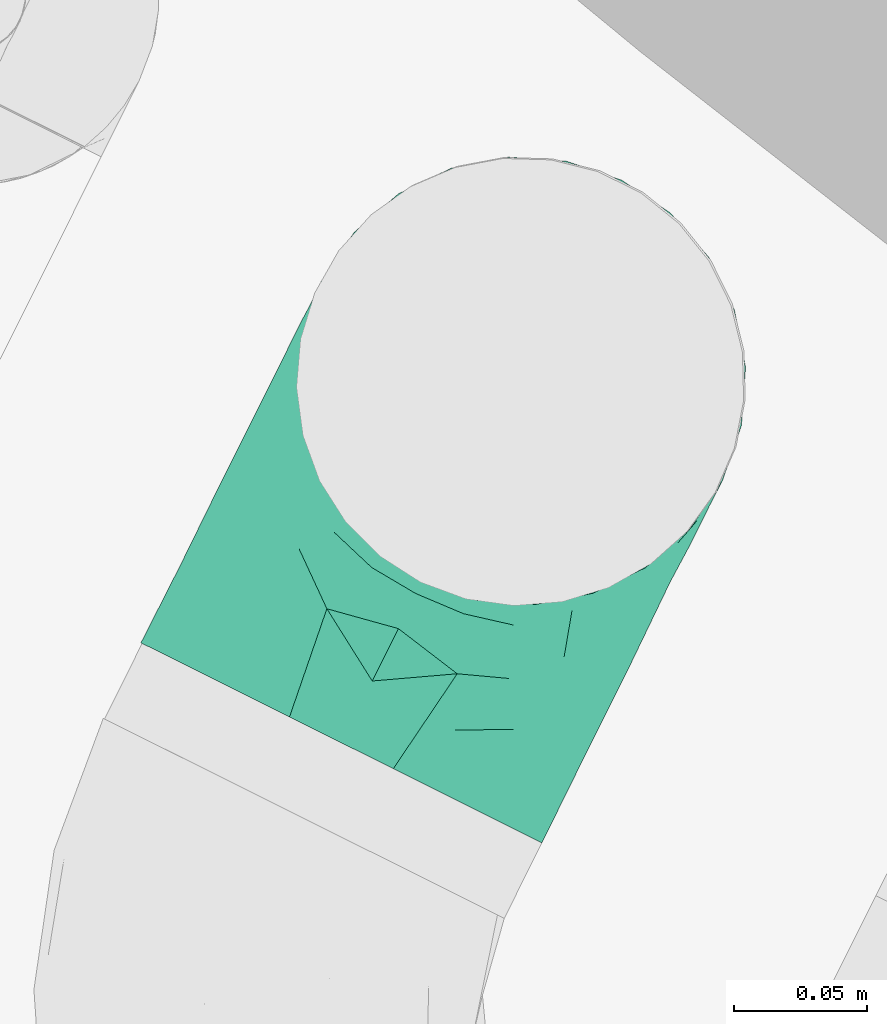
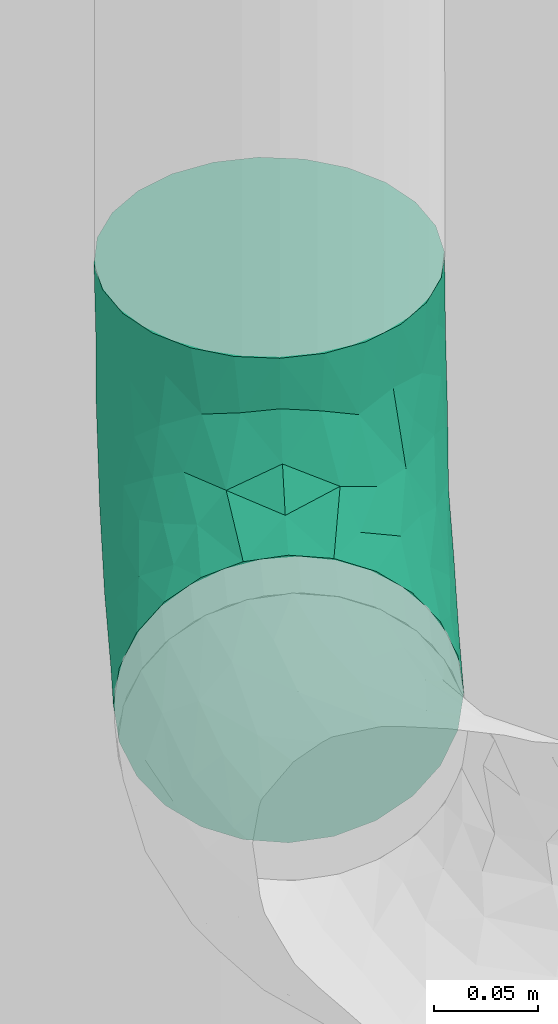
# One storey, part 42 of 47: 1 flow fitting.
"""IFC2X3 building model written with IfcOpenShell, lengths in metres."""

from ifc_helpers import new_model, entity, si_unit, converted_unit, derived_unit, direction, frame, origin, place, context, subcontext, project, spatial, faceted_brep, source, transform, mapped, type_object, type_shapes, element, save


model = new_model("IFC2X3")

# Units and contexts
model_context = context("Model", 3, precision=1e-05, world=origin(), true_north=direction((0.894925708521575, 0.446215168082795)))
context_of_model = context(None, 3, precision=1e-05, world=origin(), true_north=direction((0.894925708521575, 0.446215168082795)))
body_context = subcontext(model_context, "Body", "Model", "MODEL_VIEW")
ifc_project = project(units=[si_unit("LENGTHUNIT", "METRE"), si_unit("AREAUNIT", "SQUARE_METRE"), si_unit("VOLUMEUNIT", "CUBIC_METRE"), converted_unit("PLANEANGLEUNIT", "DEGREE", entity("IfcRatioMeasure", 0.0174532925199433), si_unit("PLANEANGLEUNIT", "RADIAN"), dimensions=[0, 0, 0, 0, 0, 0, 0]), si_unit("MASSUNIT", "GRAM", prefix="KILO"), si_unit("TIMEUNIT", "SECOND"), si_unit("FREQUENCYUNIT", "HERTZ"), si_unit("THERMODYNAMICTEMPERATUREUNIT", "DEGREE_CELSIUS"), derived_unit("THERMALTRANSMITTANCEUNIT", [(si_unit("MASSUNIT", "GRAM", prefix="KILO"), 1), (si_unit("THERMODYNAMICTEMPERATUREUNIT", "KELVIN"), -1), (si_unit("TIMEUNIT", "SECOND"), -3)]), derived_unit("VOLUMETRICFLOWRATEUNIT", [(si_unit("LENGTHUNIT", "METRE"), 3), (si_unit("TIMEUNIT", "SECOND"), -1)]), si_unit("ELECTRICCURRENTUNIT", "AMPERE"), si_unit("ELECTRICVOLTAGEUNIT", "VOLT"), si_unit("POWERUNIT", "WATT"), si_unit("FORCEUNIT", "NEWTON", prefix="KILO"), si_unit("ILLUMINANCEUNIT", "LUX"), si_unit("LUMINOUSFLUXUNIT", "LUMEN"), si_unit("LUMINOUSINTENSITYUNIT", "CANDELA"), si_unit("PRESSUREUNIT", "PASCAL")], contexts=[model_context, context_of_model])

# Site, building, storey
site_placement = place(None, frame((218.228324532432, 584.720189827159, 0.0), z_axis=(0.0, 0.0, 1.0), x_axis=(0.446215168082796, 0.894925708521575, 0.0)))
site = spatial("IfcSite", under=ifc_project, at=site_placement, Name="Default", CompositionType="ELEMENT")
building_placement = place(site_placement, origin())
building = spatial("IfcBuilding", under=site, at=building_placement, CompositionType="ELEMENT")
storey_placement = place(building_placement, frame((0.0, 0.0, 4.69)))
storey = spatial("IfcBuildingStorey", under=building, at=storey_placement, Name="1 - Piano Primo", CompositionType="ELEMENT", Elevation=4.69)

# Flow fitting
pipe_fitting_type = type_object("IfcPipeFittingType", Name="Standard", PredefinedType="NOTDEFINED")
shared_shape = source(origin(), body_context, "Body", "Brep", [
    faceted_brep([(-0.151999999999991, 0.0, -0.0841500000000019), (-0.151999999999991, -0.0217796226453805, -0.081282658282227), (-0.151999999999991, -0.0420750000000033, -0.0728760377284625), (-0.151999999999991, -0.0595030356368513, -0.05950303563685), (-0.151999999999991, -0.0728760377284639, -0.0420750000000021), (-0.151999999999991, -0.0812826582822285, -0.0217796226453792), (-0.151999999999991, -0.0841500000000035, 0.0), (-0.151999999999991, -0.0812826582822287, 0.021779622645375), (-0.151999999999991, -0.0728760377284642, 0.0420749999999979), (-0.151999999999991, -0.0595030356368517, 0.0595030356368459), (-0.151999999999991, -0.0420750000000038, 0.0728760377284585), (-0.151999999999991, -0.021779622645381, 0.0812826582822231), (-0.151999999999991, 0.0, 0.0841499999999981), (-0.151999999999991, 0.0217796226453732, 0.0812826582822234), (-0.151999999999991, 0.0420749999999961, 0.0728760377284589), (-0.151999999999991, 0.0595030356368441, 0.0595030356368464), (-0.151999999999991, 0.0728760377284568, 0.0420749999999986), (-0.151999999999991, 0.0812826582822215, 0.0217796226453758), (-0.151999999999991, 0.0841499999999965, 0.0), (-0.151999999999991, 0.0812826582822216, -0.021779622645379), (-0.151999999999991, 0.072876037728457, -0.0420750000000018), (-0.151999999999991, 0.0595030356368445, -0.0595030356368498), (-0.151999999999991, 0.0420749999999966, -0.0728760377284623), (-0.151999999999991, 0.0217796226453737, -0.0812826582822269), (-0.0218286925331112, 0.151992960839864, -0.0812826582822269), (-0.0421240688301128, 0.151986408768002, -0.0728760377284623), (-0.0595521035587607, 0.151980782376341, -0.0595030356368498), (-0.0729251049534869, 0.151976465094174, -0.0420750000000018), (-0.0813317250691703, 0.151973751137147, -0.021779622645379), (-0.0841990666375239, 0.151972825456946, 0.0), (-0.0813317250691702, 0.151973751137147, 0.0217796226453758), (-0.0729251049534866, 0.151976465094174, 0.0420749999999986), (-0.0595521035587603, 0.151980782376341, 0.0595030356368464), (-0.0421240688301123, 0.151986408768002, 0.0728760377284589), (-0.0218286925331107, 0.151992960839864, 0.0812826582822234), (-4.907102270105e-05, 0.151999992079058, 0.0841499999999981), (0.0217305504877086, 0.152007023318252, 0.0812826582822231), (0.0420259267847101, 0.152013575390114, 0.0728760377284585), (0.059453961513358, 0.152019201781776, 0.0595030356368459), (0.0728269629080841, 0.152023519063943, 0.0420749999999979), (0.0812335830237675, 0.15202623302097, 0.021779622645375), (0.0841009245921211, 0.152027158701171, 0.0), (0.0812335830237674, 0.15202623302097, -0.0217796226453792), (0.0728269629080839, 0.152023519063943, -0.0420750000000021), (0.0594539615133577, 0.152019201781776, -0.05950303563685), (0.0420259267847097, 0.152013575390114, -0.0728760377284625), (0.0217305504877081, 0.152007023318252, -0.081282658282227), (-4.90710227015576e-05, 0.151999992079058, -0.0841500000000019), (-0.112310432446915, -0.0662378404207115, 0.0469747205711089), (-0.0999104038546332, -0.0498997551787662, 0.0623502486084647), (-0.0994519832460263, -0.0782280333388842, 0.0), (0.0326182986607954, 0.00477846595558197, 0.0), (0.0138982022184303, -0.0138937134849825, 0.0159390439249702), (-0.00476793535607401, -0.0326198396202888, 0.0), (-0.104346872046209, -0.0750373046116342, 0.0261448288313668), (-0.113423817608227, 0.0105442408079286, 0.0839780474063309), (-0.103456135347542, 0.0347209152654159, 0.0803295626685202), (-0.131472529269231, 0.030969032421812, 0.0789065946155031), (-0.0309253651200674, -0.0471420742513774, 0.0225711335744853), (-0.049540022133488, -0.0607592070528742, 0.0), (-0.0683518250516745, -0.056889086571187, 0.0418275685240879), (-0.0660408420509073, -0.0644518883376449, 0.0231635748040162), (-0.0836142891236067, 0.116970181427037, 0.037888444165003), (-0.0265553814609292, 0.0183211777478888, 0.0780987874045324), (-0.016550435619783, 0.0456747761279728, 0.0816857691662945), (-0.0428653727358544, 0.0321351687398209, 0.0835395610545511), (0.046984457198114, 0.0693359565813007, 0.0552149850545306), (0.0568670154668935, 0.0683701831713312, 0.0418275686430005), (0.0662015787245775, 0.112331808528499, 0.0469747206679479), (-0.088120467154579, 0.123131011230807, 0.0194510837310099), (-0.115040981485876, -0.0119264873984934, 0.0826066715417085), (0.0498674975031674, 0.0999265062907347, 0.0623502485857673), (-0.111166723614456, -0.0327247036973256, 0.0754883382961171), (-0.0752591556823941, -0.0325423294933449, 0.0692101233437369), (-0.00890661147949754, -0.0110127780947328, 0.0535411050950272), (-0.00897802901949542, 0.00897512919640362, 0.0674769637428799), (-0.0444752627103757, -0.0301075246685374, 0.0595170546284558), (-0.109369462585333, 0.093468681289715, 0.0273537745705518), (-0.128747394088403, 0.0797539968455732, 0.0359127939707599), (-0.12604864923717, 0.0893131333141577, 0.0), (0.04713208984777, 0.0309405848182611, 0.0225711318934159), (0.0371204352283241, 0.0305956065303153, 0.0422805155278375), (-0.0347543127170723, 0.10344492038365, 0.0803295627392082), (-0.0262513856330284, 0.0749031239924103, 0.0840309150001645), (-0.0105808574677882, 0.11342040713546, 0.0839780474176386), (-0.119951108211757, 0.0519223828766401, 0.0698594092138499), (-0.0833569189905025, 0.0610034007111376, 0.0750781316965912), (-0.0993941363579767, 0.0670352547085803, 0.0661127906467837), (-0.0523087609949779, 0.118026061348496, 0.070038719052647), (-0.118538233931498, 0.0695719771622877, 0.0557473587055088), (0.0607432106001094, 0.0495596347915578, 0.0), (0.0326888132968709, 0.111177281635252, 0.0754883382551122), (-0.0767665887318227, 0.0258328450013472, 0.08399544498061), (0.0118893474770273, 0.115044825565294, 0.0826066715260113), (-0.102230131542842, 0.0876990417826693, 0.045671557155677), (0.078195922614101, 0.0994772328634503, 0.0), (0.0750036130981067, 0.104371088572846, 0.026144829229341), (0.0651063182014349, 0.0654365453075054, 0.0199209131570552), (-0.0566668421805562, 0.0566485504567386, 0.08238359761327), (-0.0310114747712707, 0.131462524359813, 0.0789065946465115), (-0.067383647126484, 0.10159431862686, 0.0649667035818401), (-0.0688114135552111, 0.121625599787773, 0.0553238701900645), (-0.0893538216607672, 0.126019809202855, 0.0), (-0.104049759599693, 0.104016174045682, 0.0), (-0.0581140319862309, 0.0854157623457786, 0.0756382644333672), (0.00432566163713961, 0.0425324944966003, 0.0746381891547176), (0.00306461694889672, 0.0734475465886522, 0.0812629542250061), (-0.069320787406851, -0.0470068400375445, 0.0552149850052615), (-0.0856484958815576, 0.0862562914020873, 0.0604128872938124), (-0.0414857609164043, 0.0784197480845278, 0.0819280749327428), (-0.0734465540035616, -0.00308832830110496, 0.0812629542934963), (-0.0305836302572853, -0.0371303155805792, 0.042280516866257), (-0.0426323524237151, -0.0109694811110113, 0.0715612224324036), (0.0221942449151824, 0.0752031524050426, 0.0748771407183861), (0.0365244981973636, 0.0751454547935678, 0.0664585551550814), (0.0166809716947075, 0.0144063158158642, 0.0525811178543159), (-0.0796535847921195, 0.0464448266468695, 0.0806480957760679), (0.00908020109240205, -0.00907726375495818, 0.0365163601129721), (0.0300931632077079, 0.0444849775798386, 0.0595170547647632), (-0.11943676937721, 0.0520128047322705, -0.0699077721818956), (-0.110239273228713, 0.0332312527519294, -0.0799999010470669), (0.0672635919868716, 0.127469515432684, -0.0486307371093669), (-0.11977747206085, 0.00991737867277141, -0.0839132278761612), (-0.109369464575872, 0.0934686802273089, -0.0273537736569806), (-0.118536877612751, 0.0804221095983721, -0.0418916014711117), (-0.0824930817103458, 0.0176279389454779, -0.0841470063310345), (-0.0422476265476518, 0.0404851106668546, -0.0840307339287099), (-0.0715825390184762, 0.0462153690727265, -0.0819516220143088), (-0.0269756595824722, -0.0344529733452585, -0.0427224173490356), (-0.0323743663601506, -0.0463005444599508, -0.0273077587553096), (-0.0576261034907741, -0.052370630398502, -0.0416620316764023), (-0.0099560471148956, 0.119774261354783, -0.0839132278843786), (-0.0332668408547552, 0.110228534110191, -0.0799999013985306), (-0.0929932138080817, 0.0517213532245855, -0.0762290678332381), (0.00397680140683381, 0.0640215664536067, -0.0796658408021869), (0.00840578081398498, 0.0328936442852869, -0.0692486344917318), (-0.0236556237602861, 0.0236479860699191, -0.0787999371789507), (0.0635377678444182, 0.0943750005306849, -0.0449410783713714), (0.0646910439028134, 0.0698273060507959, -0.0267647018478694), (0.052352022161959, 0.0576430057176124, -0.0416620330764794), (-0.132115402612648, 0.0669068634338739, -0.053910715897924), (-0.110175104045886, -0.0759246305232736, -0.0269102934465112), (-0.127447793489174, -0.0673047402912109, -0.048630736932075), (-0.0698064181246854, -0.0647135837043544, -0.0267647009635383), (0.00866443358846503, -0.00866163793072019, -0.0377125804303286), (0.0160223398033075, 0.0156412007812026, -0.0541538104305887), (0.0347786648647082, 0.0273222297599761, -0.0425667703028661), (-0.109093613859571, -0.0511105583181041, -0.063170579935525), (0.0137935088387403, -0.0137890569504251, -0.0166881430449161), (-0.0734397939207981, 0.107407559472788, -0.0572849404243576), (-0.0938685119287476, 0.0941263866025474, -0.0467674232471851), (-0.0825344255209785, 0.119725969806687, -0.0374148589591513), (0.0202934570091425, 0.0629024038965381, -0.0729226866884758), (-0.127858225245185, -0.0335950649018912, -0.0764530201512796), (-0.111262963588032, -0.0115624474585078, -0.0825043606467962), (-0.0546081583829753, -0.0374715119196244, -0.0579230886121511), (-0.0943544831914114, -0.0635682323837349, -0.0449410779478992), (0.0462900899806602, 0.0323893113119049, -0.0273077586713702), (-0.0879878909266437, 0.123562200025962, -0.0192179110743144), (-0.0520513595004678, 0.119419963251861, -0.0699077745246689), (-0.0669117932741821, 0.13241770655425, -0.053867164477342), (0.0758890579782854, 0.110199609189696, -0.0269102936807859), (-0.0940457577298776, 0.0671582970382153, -0.0682359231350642), (-0.0852923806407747, 0.0856853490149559, -0.0610410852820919), (-0.0723948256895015, 0.072371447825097, -0.074361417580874), (0.0510753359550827, 0.109110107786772, -0.0631705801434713), (0.0335537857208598, 0.127869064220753, -0.0764530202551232), (0.0115265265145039, 0.11126668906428, -0.0825043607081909), (0.0304309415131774, 0.0950688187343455, -0.074492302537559), (-0.058790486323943, -0.0231728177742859, -0.0701795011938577), (-0.0640202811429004, -0.00399747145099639, -0.0796658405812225), (-0.0253226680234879, -0.00591138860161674, -0.0673471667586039), (-0.0950589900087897, -0.0304616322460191, -0.0744923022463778), (0.0374538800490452, 0.0546202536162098, -0.0579230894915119), (-0.0176545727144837, 0.0824873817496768, -0.0841470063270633), (-0.0470086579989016, 0.0749467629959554, -0.0812911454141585), (-0.0651758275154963, 0.0957760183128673, -0.068740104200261), (-0.054869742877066, 0.0878730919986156, -0.0762541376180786), (-0.0116826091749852, -0.0137951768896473, -0.0531819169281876), (-0.106916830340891, 0.0736214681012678, -0.0573573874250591)], [[[0, 1, 2, 3, 4, 5, 6, 7, 8, 9, 10, 11, 12, 13, 14, 15, 16, 17, 18, 19, 20, 21, 22, 23]], [[24, 25, 26, 27, 28, 29, 30, 31, 32, 33, 34, 35, 36, 37, 38, 39, 40, 41, 42, 43, 44, 45, 46, 47]], [[9, 48, 49]], [[7, 6, 50]], [[51, 52, 53]], [[54, 8, 7]], [[50, 54, 7]], [[55, 56, 57]], [[8, 48, 9]], [[58, 59, 53]], [[60, 54, 61]], [[58, 60, 61]], [[9, 49, 10]], [[62, 31, 30]], [[63, 64, 65]], [[66, 67, 68]], [[30, 69, 62]], [[11, 70, 12]], [[71, 38, 37]], [[14, 13, 57]], [[10, 49, 72]], [[49, 73, 72]], [[74, 75, 76]], [[77, 17, 78]], [[17, 79, 18]], [[79, 17, 77]], [[80, 67, 81]], [[82, 83, 84]], [[85, 86, 87]], [[33, 32, 88]], [[85, 89, 15]], [[80, 51, 90]], [[71, 37, 91]], [[56, 55, 92]], [[93, 36, 35]], [[78, 94, 77]], [[95, 40, 96]], [[95, 96, 97]], [[83, 98, 65]], [[35, 34, 84]], [[34, 99, 84]], [[96, 40, 39]], [[71, 66, 68]], [[39, 38, 68]], [[94, 62, 77]], [[67, 80, 97]], [[100, 88, 101]], [[40, 95, 41]], [[15, 14, 85]], [[68, 96, 39]], [[56, 86, 85]], [[29, 102, 69]], [[15, 89, 16]], [[77, 69, 103]], [[78, 17, 16]], [[77, 103, 79]], [[61, 50, 59]], [[101, 88, 32]], [[69, 77, 62]], [[82, 88, 104]], [[91, 37, 36]], [[10, 72, 11]], [[64, 105, 106]], [[88, 82, 99]], [[99, 34, 33]], [[49, 48, 107]], [[48, 54, 60]], [[97, 80, 90]], [[32, 31, 101]], [[13, 12, 55]], [[108, 86, 104]], [[83, 82, 109]], [[93, 84, 106]], [[70, 55, 12]], [[110, 65, 92]], [[60, 58, 111]], [[76, 112, 73]], [[91, 113, 114]], [[75, 74, 115]], [[49, 107, 73]], [[70, 72, 110]], [[93, 91, 36]], [[106, 105, 113]], [[57, 85, 14]], [[56, 116, 86]], [[31, 62, 101]], [[108, 101, 62]], [[54, 48, 8]], [[48, 60, 107]], [[71, 68, 38]], [[96, 68, 67]], [[109, 104, 98]], [[89, 87, 108]], [[84, 93, 35]], [[93, 106, 113]], [[72, 70, 11]], [[55, 70, 110]], [[98, 116, 92]], [[106, 84, 83]], [[110, 112, 63]], [[83, 65, 64]], [[52, 58, 53]], [[111, 76, 107]], [[67, 66, 81]], [[52, 80, 117]], [[110, 92, 55]], [[98, 92, 65]], [[104, 88, 100]], [[98, 104, 86]], [[112, 76, 75]], [[110, 72, 73]], [[63, 112, 75]], [[110, 73, 112]], [[63, 75, 105]], [[110, 63, 65]], [[75, 118, 105]], [[113, 91, 93]], [[105, 118, 113]], [[118, 66, 114]], [[16, 89, 78]], [[94, 89, 108]], [[89, 94, 78]], [[62, 94, 108]], [[105, 64, 63]], [[83, 64, 106]], [[58, 117, 111]], [[74, 111, 117]], [[115, 81, 118]], [[117, 80, 81]], [[80, 52, 51]], [[58, 52, 117]], [[88, 99, 33]], [[84, 99, 82]], [[55, 57, 13]], [[85, 57, 56]], [[29, 69, 30]], [[69, 102, 103]], [[111, 107, 60]], [[73, 107, 76]], [[111, 74, 76]], [[117, 81, 115]], [[75, 115, 118]], [[117, 115, 74]], [[114, 66, 71]], [[81, 66, 118]], [[91, 114, 71]], [[118, 114, 113]], [[101, 108, 100]], [[104, 100, 108]], [[92, 116, 56]], [[98, 86, 116]], [[85, 87, 89]], [[86, 108, 87]], [[104, 109, 82]], [[98, 83, 109]], [[50, 61, 54]], [[59, 58, 61]], [[95, 97, 90]], [[67, 97, 96]], [[22, 119, 120]], [[121, 44, 43]], [[0, 23, 122]], [[19, 123, 124]], [[122, 120, 125]], [[126, 125, 127]], [[18, 79, 19]], [[128, 129, 130]], [[19, 79, 123]], [[24, 131, 132]], [[119, 133, 120]], [[134, 135, 136]], [[137, 138, 139]], [[20, 140, 21]], [[141, 4, 142]], [[143, 50, 141]], [[50, 6, 5]], [[144, 145, 146]], [[147, 3, 2]], [[129, 143, 130]], [[129, 144, 148]], [[149, 150, 151]], [[135, 134, 152]], [[141, 5, 4]], [[2, 153, 147]], [[154, 1, 0]], [[155, 156, 147]], [[2, 1, 153]], [[157, 90, 51]], [[123, 150, 124]], [[103, 123, 79]], [[156, 143, 141]], [[151, 158, 28]], [[25, 132, 159]], [[28, 158, 29]], [[27, 160, 151]], [[43, 42, 161]], [[27, 26, 160]], [[162, 163, 164]], [[45, 44, 165]], [[166, 167, 46]], [[165, 168, 166]], [[169, 170, 171]], [[131, 24, 47]], [[51, 148, 157]], [[26, 25, 159]], [[125, 120, 127]], [[46, 45, 166]], [[157, 139, 138]], [[53, 59, 129]], [[24, 132, 25]], [[3, 142, 4]], [[148, 51, 53]], [[154, 172, 153]], [[168, 165, 173]], [[28, 27, 151]], [[41, 95, 42]], [[172, 154, 170]], [[120, 133, 127]], [[161, 137, 121]], [[46, 167, 47]], [[167, 134, 174]], [[135, 171, 136]], [[120, 23, 22]], [[164, 175, 127]], [[102, 158, 103]], [[159, 176, 149]], [[22, 21, 119]], [[138, 137, 161]], [[149, 163, 150]], [[158, 102, 29]], [[121, 165, 44]], [[173, 165, 137]], [[134, 167, 168]], [[131, 167, 174]], [[152, 173, 135]], [[134, 136, 126]], [[42, 95, 161]], [[138, 95, 90]], [[155, 147, 172]], [[142, 147, 156]], [[122, 154, 0]], [[125, 126, 170]], [[125, 170, 154]], [[170, 136, 171]], [[130, 143, 156]], [[50, 5, 141]], [[140, 119, 21]], [[133, 162, 164]], [[175, 164, 177]], [[160, 159, 149]], [[173, 145, 135]], [[145, 178, 171]], [[171, 135, 145]], [[171, 155, 169]], [[120, 122, 23]], [[154, 122, 125]], [[167, 131, 47]], [[132, 131, 174]], [[95, 138, 161]], [[90, 157, 138]], [[129, 59, 143]], [[50, 143, 59]], [[177, 164, 176]], [[126, 136, 170]], [[175, 126, 127]], [[134, 126, 174]], [[132, 174, 175]], [[126, 175, 174]], [[173, 139, 146]], [[145, 144, 178]], [[128, 144, 129]], [[155, 171, 178]], [[146, 139, 157]], [[173, 137, 139]], [[144, 146, 157]], [[173, 146, 145]], [[156, 155, 130]], [[128, 155, 178]], [[155, 128, 130]], [[144, 128, 178]], [[124, 150, 179]], [[123, 151, 150]], [[140, 124, 179]], [[19, 124, 20]], [[151, 123, 158]], [[103, 158, 123]], [[162, 119, 179]], [[127, 133, 164]], [[119, 162, 133]], [[163, 162, 179]], [[150, 163, 179]], [[163, 149, 176]], [[129, 148, 53]], [[157, 148, 144]], [[124, 140, 20]], [[119, 140, 179]], [[159, 160, 26]], [[151, 160, 149]], [[165, 166, 45]], [[167, 166, 168]], [[161, 121, 43]], [[165, 121, 137]], [[154, 153, 1]], [[147, 153, 172]], [[147, 142, 3]], [[141, 142, 156]], [[159, 132, 177]], [[163, 176, 164]], [[159, 177, 176]], [[132, 175, 177]], [[134, 168, 152]], [[173, 152, 168]], [[155, 172, 169]], [[170, 169, 172]]]),
])
type_shapes(pipe_fitting_type, [shared_shape])
flow_fitting_placement = place(storey_placement, frame((66.9322158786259, -2.02395892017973, 2.95999999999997), z_axis=(-0.000142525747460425, -0.999999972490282, 0.000186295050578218), x_axis=(0.999999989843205, -0.000142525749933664, 0.0)))
element("IfcFlowFitting", 1, at=flow_fitting_placement, inside=storey, type_object=pipe_fitting_type, Name="M_Gomito - Saldato - Generico:Standard", ObjectType="Standard", context=body_context, shape_type="MappedRepresentation", body=[
    mapped(shared_shape, transform((0.0, 0.0, 0.0), scale=1.0)),
])

save(model, "model.ifc")
